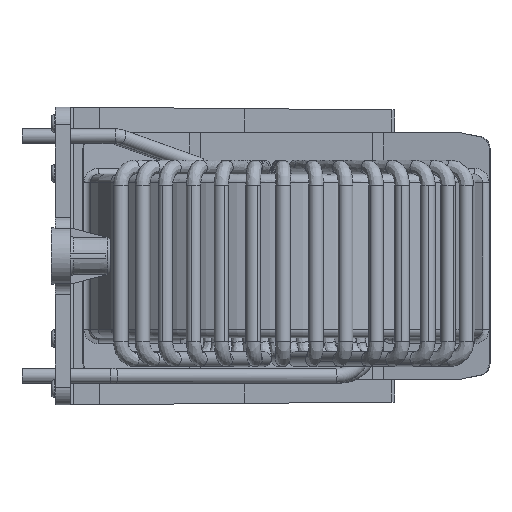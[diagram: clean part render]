
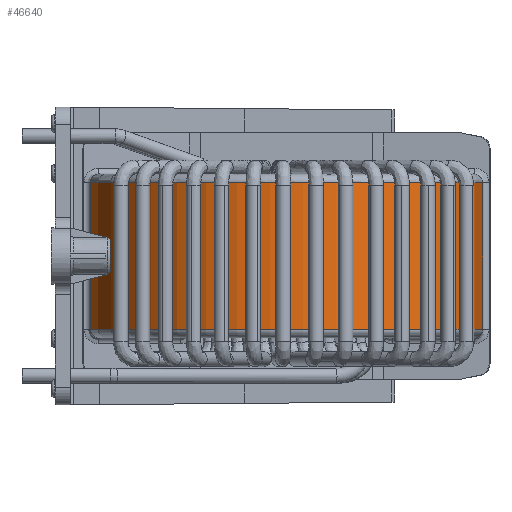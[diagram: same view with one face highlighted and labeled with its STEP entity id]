
A CAD part, left-side view. The second image highlights one B-rep face of the part: STEP entity #46640.
In plain terms, the highlighted cylindrical face has radius 33.6 mm (diameter 67.2 mm), a partial arc.
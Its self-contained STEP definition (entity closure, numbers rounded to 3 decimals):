
#15821=CARTESIAN_POINT('',(-4.847,33.248,26.3));
#15822=VERTEX_POINT('',#15821);
#15831=CARTESIAN_POINT('',(-4.847,-33.248,26.3));
#15832=VERTEX_POINT('',#15831);
#15833=CARTESIAN_POINT('',(0.0,0.0,26.3));
#15834=DIRECTION('',(0.0,0.0,1.0));
#15835=DIRECTION('',(-1.0,0.0,0.0));
#15836=AXIS2_PLACEMENT_3D('',#15833,#15834,#15835);
#15837=CIRCLE('',#15836,33.6);
#15838=EDGE_CURVE('',#15822,#15832,#15837,.T.);
#46175=CARTESIAN_POINT('',(-4.847,33.248,1.5));
#46176=VERTEX_POINT('',#46175);
#46184=CARTESIAN_POINT('',(-4.847,33.248,1.5));
#46185=DIRECTION('',(0.0,0.0,1.0));
#46186=VECTOR('',#46185,24.8);
#46187=LINE('',#46184,#46186);
#46188=EDGE_CURVE('',#46176,#15822,#46187,.T.);
#46616=CARTESIAN_POINT('',(0.0,0.0,0.0));
#46617=DIRECTION('',(0.0,0.0,1.0));
#46618=DIRECTION('',(-1.0,0.0,0.0));
#46619=AXIS2_PLACEMENT_3D('',#46616,#46617,#46618);
#46620=CYLINDRICAL_SURFACE('',#46619,33.6);
#46621=ORIENTED_EDGE('',*,*,#46188,.F.);
#46622=CARTESIAN_POINT('',(-4.847,-33.248,1.5));
#46623=VERTEX_POINT('',#46622);
#46624=CARTESIAN_POINT('',(0.0,0.0,1.5));
#46625=DIRECTION('',(0.0,0.0,-1.0));
#46626=DIRECTION('',(-1.0,0.0,0.0));
#46627=AXIS2_PLACEMENT_3D('',#46624,#46625,#46626);
#46628=CIRCLE('',#46627,33.6);
#46629=EDGE_CURVE('',#46623,#46176,#46628,.T.);
#46630=ORIENTED_EDGE('',*,*,#46629,.F.);
#46631=CARTESIAN_POINT('',(-4.847,-33.248,26.3));
#46632=DIRECTION('',(0.0,0.0,-1.0));
#46633=VECTOR('',#46632,24.8);
#46634=LINE('',#46631,#46633);
#46635=EDGE_CURVE('',#15832,#46623,#46634,.T.);
#46636=ORIENTED_EDGE('',*,*,#46635,.F.);
#46637=ORIENTED_EDGE('',*,*,#15838,.F.);
#46638=EDGE_LOOP('',(#46621,#46630,#46636,#46637));
#46639=FACE_OUTER_BOUND('',#46638,.T.);
#46640=ADVANCED_FACE('',(#46639),#46620,.T.);
